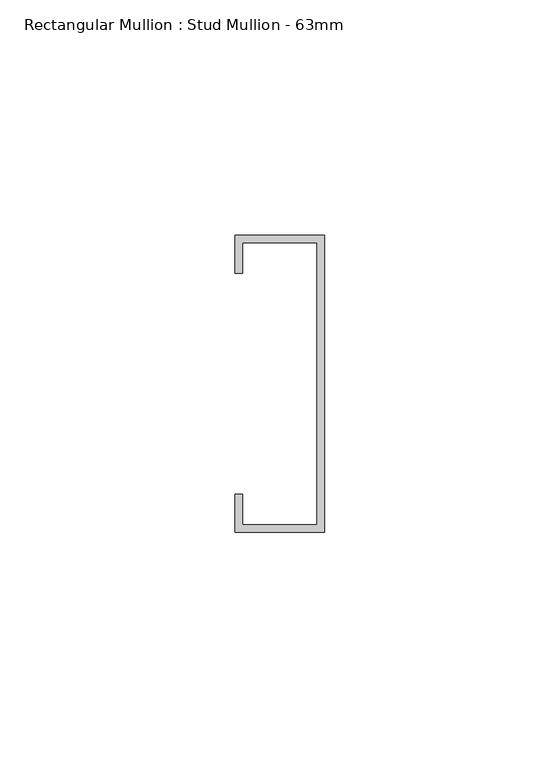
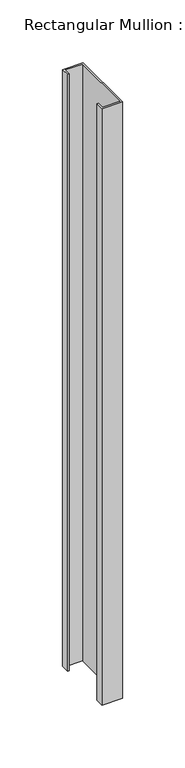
"""IFC4 building model written with IfcOpenShell, lengths in millimetres: member geometry, Rectangular Mullion : Stud Mullion - 63mm."""

from ifc_helpers import new_model, si_unit, frame, origin, place, context, project, spatial, polyline, outline, extrude, source, transform, mapped, element, save


def rectangular_mullion_stud_mullion_63mm_af775e70(model_context):
    return source(origin(), model_context, "Body", "SweptSolid", [
        extrude(outline(polyline([(-19.0, 23.5), (-19.0, 31.5), (0.0, 31.5), (0.0, -31.5), (-19.0, -31.5), (-19.0, -23.5), (-17.4, -23.5), (-17.4, -29.9), (-1.6, -29.9), (-1.6, 29.9), (-17.4, 29.9), (-17.4, 23.5), (-19.0, 23.5)])), frame((0.0, 0.0, -581.0000003), z_axis=(0.0, 0.0, 1.0), x_axis=(1.0, 0.0, 0.0)), (0.0, 0.0, 1.0), 581.0000003),
    ])


if __name__ == "__main__":
    model = new_model("IFC4")
    model_context = context("Model", 3, world=origin())
    ifc_project = project(units=[si_unit("LENGTHUNIT", "METRE", prefix="MILLI")], contexts=[model_context])
    site = spatial("IfcSite", under=ifc_project)
    building = spatial("IfcBuilding", under=site)
    placement = place(None, origin())
    rectangular_mullion_stud_mullion_63mm_shape = rectangular_mullion_stud_mullion_63mm_af775e70(model_context)
    element("IfcMember", 1, ObjectType="Rectangular Mullion : Stud Mullion - 63mm", at=placement, inside=building, context=model_context, shape_type="MappedRepresentation", body=[
        mapped(rectangular_mullion_stud_mullion_63mm_shape, transform((0.0, 0.0, 0.0), x_axis=(1.0, 0.0, 0.0), y_axis=(0.0, 1.0, 0.0), z_axis=(0.0, 0.0, 1.0))),
    ])
    save(model, "model.ifc")
